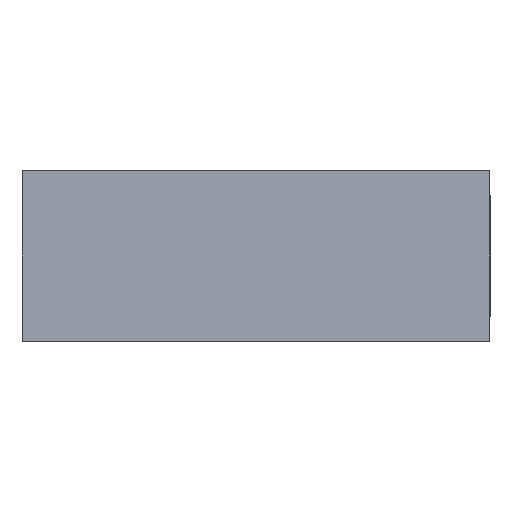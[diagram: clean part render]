
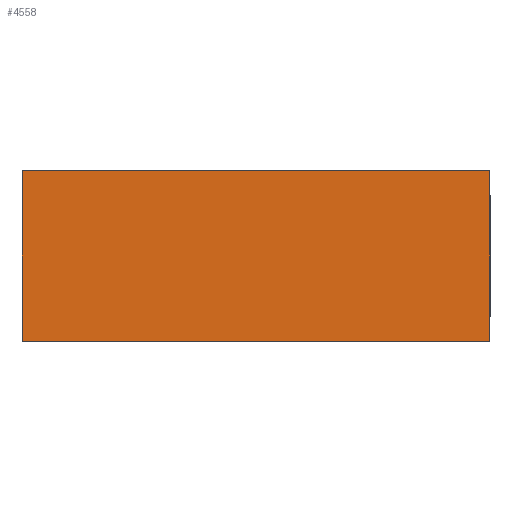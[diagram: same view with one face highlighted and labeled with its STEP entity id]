
A CAD part, left-side view. The second image highlights one B-rep face of the part: STEP entity #4558.
In plain terms, the highlighted planar face has unit normal (-1, 0, 0).
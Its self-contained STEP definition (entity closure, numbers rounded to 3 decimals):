
#36=PLANE('',#5241);
#275=FACE_OUTER_BOUND('',#518,.T.);
#518=EDGE_LOOP('',(#3838,#3839,#3840,#3841));
#566=LINE('',#7214,#830);
#785=LINE('',#8278,#1049);
#787=LINE('',#8282,#1051);
#788=LINE('',#8284,#1052);
#830=VECTOR('',#5578,10.);
#1049=VECTOR('',#6849,10.);
#1051=VECTOR('',#6853,10.);
#1052=VECTOR('',#6856,10.);
#1650=VERTEX_POINT('',#7211);
#1651=VERTEX_POINT('',#7213);
#1970=VERTEX_POINT('',#8276);
#1971=VERTEX_POINT('',#8280);
#2139=EDGE_CURVE('',#1651,#1650,#566,.T.);
#2671=EDGE_CURVE('',#1650,#1970,#785,.T.);
#2673=EDGE_CURVE('',#1651,#1971,#787,.T.);
#2674=EDGE_CURVE('',#1970,#1971,#788,.T.);
#3838=ORIENTED_EDGE('',*,*,#2674,.T.);
#3839=ORIENTED_EDGE('',*,*,#2673,.F.);
#3840=ORIENTED_EDGE('',*,*,#2139,.T.);
#3841=ORIENTED_EDGE('',*,*,#2671,.T.);
#4558=ADVANCED_FACE('',(#275),#36,.T.);
#5241=AXIS2_PLACEMENT_3D('',#8283,#6854,#6855);
#5578=DIRECTION('',(0.,0.,-1.));
#6849=DIRECTION('',(0.,-1.,0.));
#6853=DIRECTION('',(0.,-1.,0.));
#6854=DIRECTION('center_axis',(-1.,0.,0.));
#6855=DIRECTION('ref_axis',(0.,0.,1.));
#6856=DIRECTION('',(0.,0.,1.));
#7211=CARTESIAN_POINT('',(-65.257,9.619,-3.5));
#7213=CARTESIAN_POINT('',(-65.257,9.619,3.5));
#7214=CARTESIAN_POINT('',(-65.257,9.619,3.5));
#8276=CARTESIAN_POINT('',(-65.257,-9.619,-3.5));
#8278=CARTESIAN_POINT('',(-65.257,9.619,-3.5));
#8280=CARTESIAN_POINT('',(-65.257,-9.619,3.5));
#8282=CARTESIAN_POINT('',(-65.257,9.619,3.5));
#8283=CARTESIAN_POINT('Origin',(-65.257,0.,0.));
#8284=CARTESIAN_POINT('',(-65.257,-9.619,1.75));
